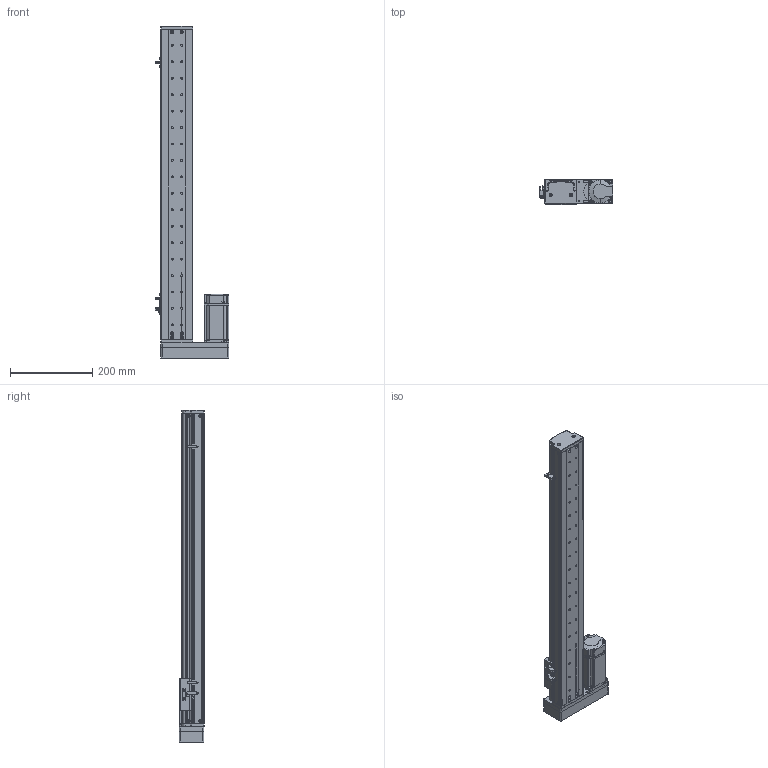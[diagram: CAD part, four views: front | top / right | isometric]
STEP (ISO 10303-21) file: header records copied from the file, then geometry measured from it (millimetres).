
FILE_DESCRIPTION (( 'STEP AP214' ), '1' );
FILE_NAME ('KSD75S-S600-ML-CM.STEP', '2019-10-18T07:03:39', ( '微软用户' ), ( '微软中国' ), 'SwSTEP 2.0', 'SolidWorks 2014', '' );
FILE_SCHEMA (( 'AUTOMOTIVE_DESIGN' ));
Length unit declared in the file: millimetre
Products named in the file (13): MHMD042G1CA_2_03; 75宽模组保护罩左右折; 75宽马达安装板连板左右折丝杆; 覜茼え100遵圉猾敕; U倰嫖萇EEㄜSX672; 綴傷啣 ; ヶ傷啣; 75裔啣-600俴最; 75遵耀郪耜啣-600俴最; 75遵賑雄釱; MGW15H賑寢600俴最 ; 600俴最; KSD75S-S600-ML-CM
Assembly tree (15 placements, depth 3):
  KSD75S-S600-ML-CM
    MGW15H賑寢600俴最 
      600俴最
    75遵賑雄釱
    75遵耀郪耜啣-600俴最  x2
    75裔啣-600俴最
    ヶ傷啣
    綴傷啣 
    U倰嫖萇EEㄜSX672  x3
    覜茼え100遵圉猾敕
    75宽马达安装板连板左右折丝杆
    75宽模组保护罩左右折
    MHMD042G1CA_2_03
Bounding box: 178.7 x 63 x 807.5 mm (x, y, z)
Volume: 1021333.9 mm3; surface area: 643576.8 mm2
Topology: 13 solids, 14 shells, 1513 faces, 4258 edges, 2781 vertices
Faces by surface type: cylinder 731, plane 635, cone 129, bspline 18
Entity records: 48458 total; most frequent: CARTESIAN_POINT 9168, DIRECTION 7304, ORIENTED_EDGE 6796, EDGE_CURVE 3469, AXIS2_PLACEMENT_3D 2696, VERTEX_POINT 2299, VECTOR 1912, LINE 1912
